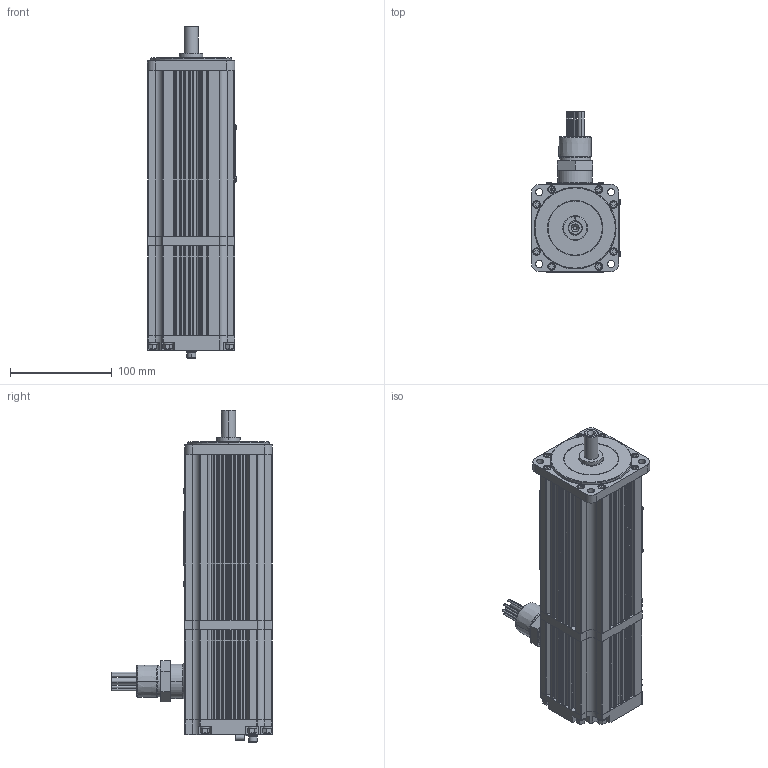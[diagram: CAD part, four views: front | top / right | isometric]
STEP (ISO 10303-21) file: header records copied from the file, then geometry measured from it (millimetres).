
FILE_DESCRIPTION (( 'STEP AP203' ), '1' );
FILE_NAME ('M431-NNN0-CG08.STEP', '2010-09-20T19:23:02', ( '' ), ( '' ), 'SwSTEP 2.0', 'SolidWorks 2010', '' );
FILE_SCHEMA (( 'CONFIG_CONTROL_DESIGN' ));
Products named in the file (1): M431-NNN0-CG08
Bounding box: 87.61 x 157.81 x 326.74 mm (x, y, z)
Surface area: 309912.1 mm2 (no closed solid volume)
Topology: 0 solids, 163 shells, 1869 faces, 6496 edges, 4767 vertices
Faces by surface type: plane 869, cylinder 685, cone 164, torus 90, bspline 61
Entity records: 79610 total; most frequent: CARTESIAN_POINT 24269, DIRECTION 11508, ORIENTED_EDGE 10066, EDGE_CURVE 6468, VERTEX_POINT 4767, VECTOR 3854, LINE 3854, AXIS2_PLACEMENT_3D 3827
